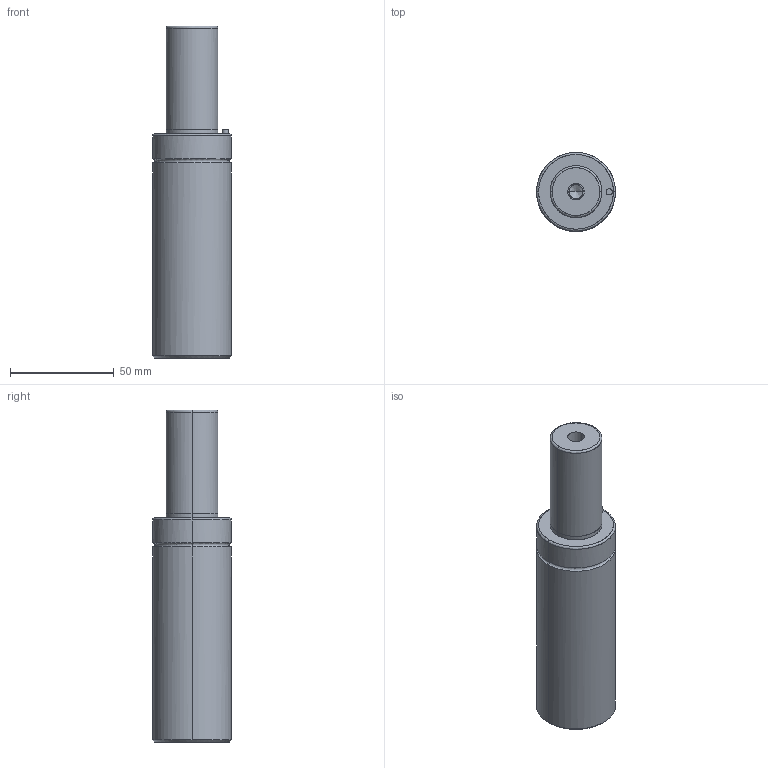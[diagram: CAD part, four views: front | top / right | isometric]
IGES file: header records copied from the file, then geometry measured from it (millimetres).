
Global section: file name: E:\UnigraphicsGraphicData\MISUMI_PRESS-PARTS\IGES\3d_gsm38-50_03932_r00.igs; native system: NX V5.0; preprocessor: UGS NX IGES V5.0; author: MISUMI; date: 20110105.160813; units: millimetre
Bounding box: 38 x 37.95 x 160 mm (x, y, z)
Surface area: 20222.7 mm2 (no closed solid volume)
Topology: 0 solids, 0 shells, 50 faces, 328 edges, 320 vertices
Faces by surface type: bspline 50
